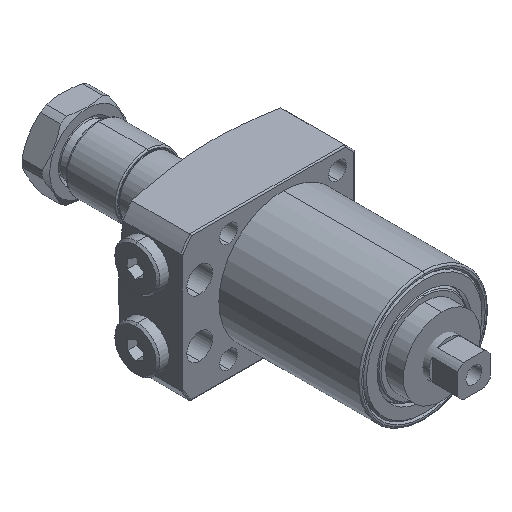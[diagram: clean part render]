
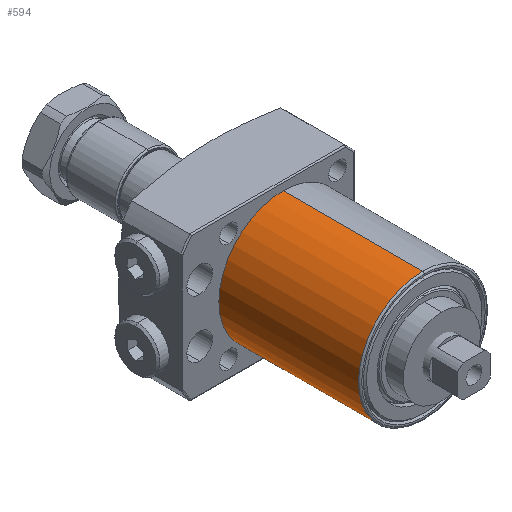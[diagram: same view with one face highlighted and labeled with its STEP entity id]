
A CAD part, isometric view. The second image highlights one B-rep face of the part: STEP entity #594.
In plain terms, the highlighted cylindrical face has radius 20 mm (diameter 40 mm), a partial arc.
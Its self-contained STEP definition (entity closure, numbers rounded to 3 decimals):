
#7 = ORIENTED_EDGE ( 'NONE', *, *, #653, .T. ) ;
#35 = CARTESIAN_POINT ( 'NONE',  ( 0., 0., -20. ) ) ;
#100 = EDGE_CURVE ( 'NONE', #7128, #5217, #3417, .T. ) ;
#365 = CARTESIAN_POINT ( 'NONE',  ( 46.5, 0., -20. ) ) ;
#594 = ADVANCED_FACE ( 'NONE', ( #4832 ), #3098, .T. ) ;
#605 = DIRECTION ( 'NONE',  ( -1., 0., 0. ) ) ;
#653 = EDGE_CURVE ( 'NONE', #5217, #4417, #4649, .T. ) ;
#728 = CARTESIAN_POINT ( 'NONE',  ( 43.5, 0., -20. ) ) ;
#1165 = CARTESIAN_POINT ( 'NONE',  ( 46.5, 0., 0. ) ) ;
#1216 = CARTESIAN_POINT ( 'NONE',  ( 46.5, 0., 20. ) ) ;
#1377 = VECTOR ( 'NONE', #5851, 1000. ) ;
#1859 = EDGE_CURVE ( 'NONE', #4417, #3197, #7093, .T. ) ;
#2283 = EDGE_LOOP ( 'NONE', ( #6317, #4623, #7, #6099 ) ) ;
#2696 = DIRECTION ( 'NONE',  ( 1., 0., 0. ) ) ;
#2744 = AXIS2_PLACEMENT_3D ( 'NONE', #1165, #605, #5199 ) ;
#3043 = CARTESIAN_POINT ( 'NONE',  ( 43.5, 0., 0. ) ) ;
#3098 = CYLINDRICAL_SURFACE ( 'NONE', #2744, 20. ) ;
#3197 = VERTEX_POINT ( 'NONE', #35 ) ;
#3417 = CIRCLE ( 'NONE', #4202, 20. ) ;
#3636 = DIRECTION ( 'NONE',  ( 0., 0., -1. ) ) ;
#3811 = EDGE_CURVE ( 'NONE', #7128, #3197, #3830, .T. ) ;
#3830 = LINE ( 'NONE', #365, #5168 ) ;
#4202 = AXIS2_PLACEMENT_3D ( 'NONE', #3043, #7080, #3636 ) ;
#4417 = VERTEX_POINT ( 'NONE', #4590 ) ;
#4590 = CARTESIAN_POINT ( 'NONE',  ( 0., 0., 20. ) ) ;
#4623 = ORIENTED_EDGE ( 'NONE', *, *, #100, .T. ) ;
#4649 = LINE ( 'NONE', #1216, #1377 ) ;
#4756 = CARTESIAN_POINT ( 'NONE',  ( 43.5, 0., 20. ) ) ;
#4832 = FACE_OUTER_BOUND ( 'NONE', #2283, .T. ) ;
#5168 = VECTOR ( 'NONE', #5532, 1000. ) ;
#5199 = DIRECTION ( 'NONE',  ( 0., 0., 1. ) ) ;
#5217 = VERTEX_POINT ( 'NONE', #4756 ) ;
#5532 = DIRECTION ( 'NONE',  ( -1., 0., 0. ) ) ;
#5851 = DIRECTION ( 'NONE',  ( -1., 0., 0. ) ) ;
#6099 = ORIENTED_EDGE ( 'NONE', *, *, #1859, .T. ) ;
#6141 = AXIS2_PLACEMENT_3D ( 'NONE', #6174, #2696, #6735 ) ;
#6174 = CARTESIAN_POINT ( 'NONE',  ( 0., 0., 0. ) ) ;
#6317 = ORIENTED_EDGE ( 'NONE', *, *, #3811, .F. ) ;
#6735 = DIRECTION ( 'NONE',  ( 0., 0., -1. ) ) ;
#7080 = DIRECTION ( 'NONE',  ( -1., 0., 0. ) ) ;
#7093 = CIRCLE ( 'NONE', #6141, 20. ) ;
#7128 = VERTEX_POINT ( 'NONE', #728 ) ;
